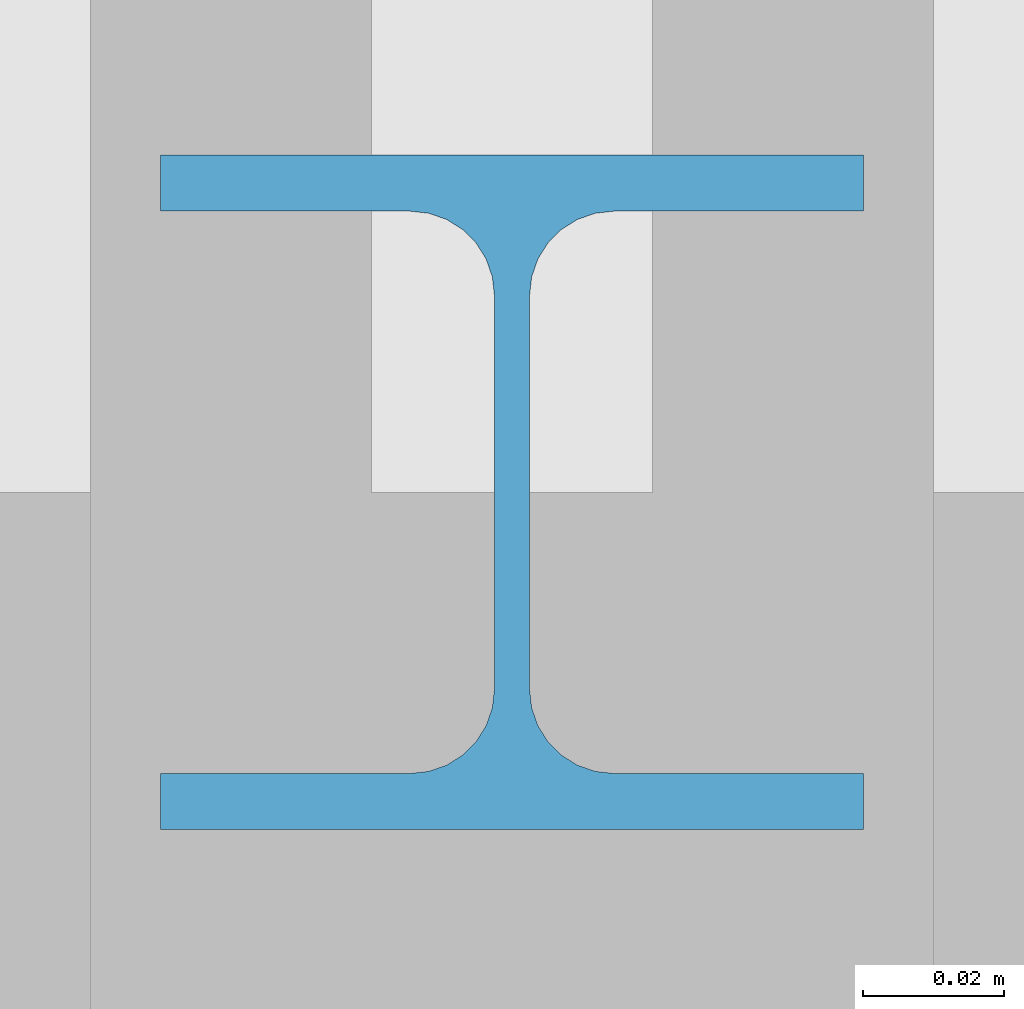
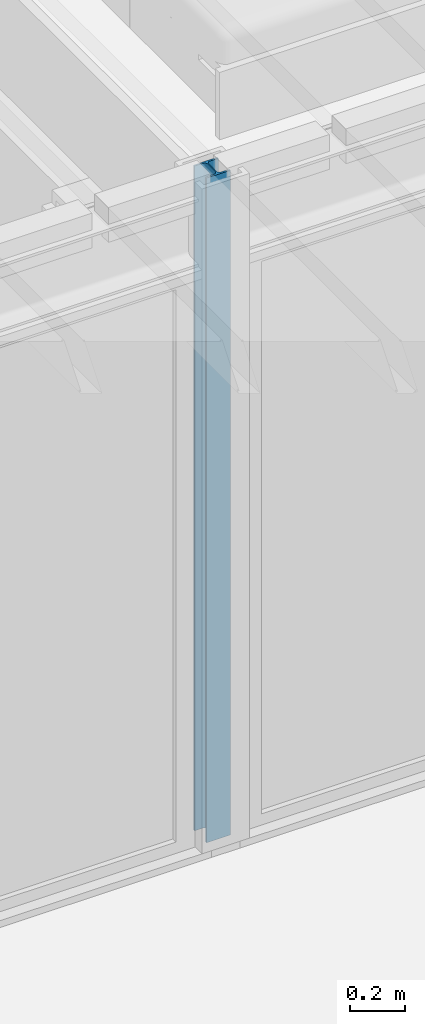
# One storey, part 10 of 28: 1 member.
"""IFC4X3_ADD2 building model written with IfcOpenShell, lengths in metres."""

from ifc_helpers import new_model, si_unit, direction, frame, origin_with_axes, origin_2d_with_axis, place, context, subcontext, project, spatial, i_section, extrude, material, element, save


model = new_model("IFC4X3_ADD2")

# Units and contexts
model_context = context("Model", 3, precision=1e-05, world=origin_with_axes(), true_north=direction((0.0, 1.0)))
body_context = subcontext(model_context, "Body", "Model", "MODEL_VIEW")
ifc_project = project(units=[si_unit("LENGTHUNIT", "METRE"), si_unit("AREAUNIT", "SQUARE_METRE"), si_unit("VOLUMEUNIT", "CUBIC_METRE"), si_unit("PLANEANGLEUNIT", "RADIAN"), si_unit("TIMEUNIT", "SECOND"), si_unit("MASSUNIT", "GRAM")], contexts=[model_context])

# Site, building, storey
site_placement = place(None, origin_with_axes())
site = spatial("IfcSite", under=ifc_project, at=site_placement, Name="Site", CompositionType="ELEMENT")
building_placement = place(site_placement, origin_with_axes())
building = spatial("IfcBuilding", under=site, at=building_placement, Name="Default Building")
storey_placement = place(building_placement, frame((0.0, 0.0, -0.08), z_axis=(0.0, 0.0, 1.0), x_axis=(1.0, 0.0, 0.0)))
storey = spatial("IfcBuildingStorey", under=building, at=storey_placement, Name="Gruendung", Elevation=-0.08)

# Member
ifc_material = material(Name="Default")
member_placement = place(storey_placement, frame((12.5, 16.0, 0.08), z_axis=(0.0, 0.0, 1.0), x_axis=(1.0, 0.0, 0.0)))
element("IfcMember", 1, at=member_placement, inside=storey, material=ifc_material, Name="Wide Flange", ObjectType="HEA 100", context=body_context, shape_type="SweptSolid", body=[
    extrude(i_section(OverallWidth=0.1, OverallDepth=0.096, WebThickness=0.005, FlangeThickness=0.008, FilletRadius=0.012, at=origin_2d_with_axis()), origin_with_axes(), (0.0, 0.0, 1.0), 2.96),
])

save(model, "model.ifc")
